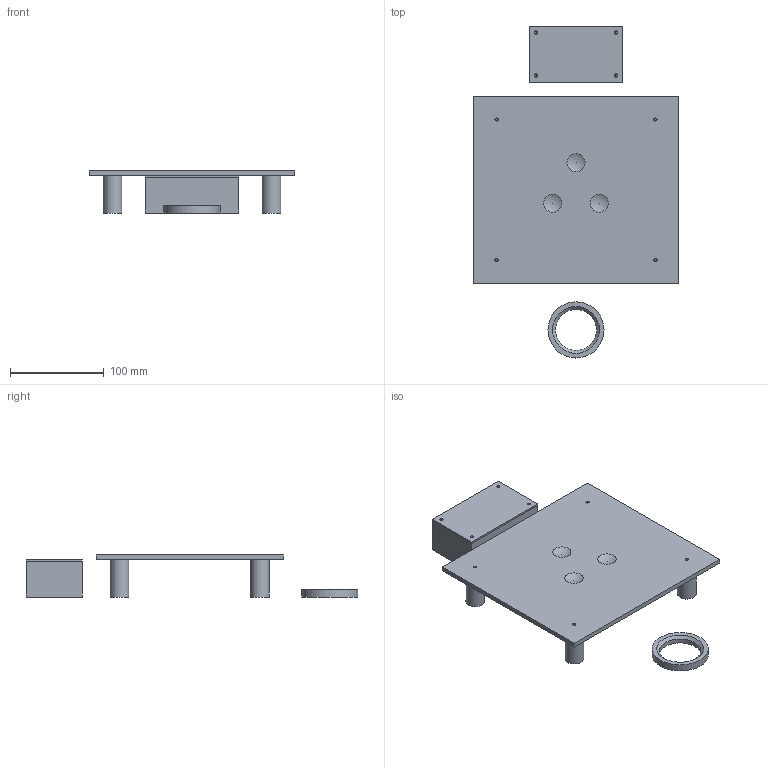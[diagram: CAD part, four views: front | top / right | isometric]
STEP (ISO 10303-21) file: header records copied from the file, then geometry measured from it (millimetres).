
FILE_DESCRIPTION(('Open CASCADE Model'),'2;1');
FILE_NAME('Open CASCADE Shape Model','2026-10-21T16:58:02',('Author'),( 'Open CASCADE'),'Open CASCADE STEP processor 7.9','Open CASCADE 7.9' ,'Unknown');
FILE_SCHEMA(('AUTOMOTIVE_DESIGN { 1 0 10303 214 1 1 1 1 }'));
Length unit declared in the file: millimetre
Products named in the file (9): P07_illustrative; tray_3_balls_0; tray_foot_1; tray_foot_2; tray_foot_3; tray_foot_4; weight_box_body_5; weight_box_lid_6; ball_ring_110_7
Assembly tree (8 placements, depth 2):
  P07_illustrative
    tray_3_balls_0
    tray_foot_1
    tray_foot_2
    tray_foot_3
    tray_foot_4
    weight_box_body_5
    weight_box_lid_6
    ball_ring_110_7
Bounding box: 220 x 355 x 45 mm (x, y, z)
Volume: 354784 mm3; surface area: 162895.6 mm2
Topology: 8 solids, 8 shells, 91 faces, 185 edges, 123 vertices
Faces by surface type: plane 57, cylinder 30, sphere 3, cone 1
Full cylindrical faces by diameter (mm): 2.5 x8, 3.4 x8, 20 x4, 44 x1, 60 x1
Entity records: 5224 total; most frequent: CARTESIAN_POINT 1111, DIRECTION 774, LINE 410, VECTOR 410, ORIENTED_EDGE 364, PCURVE 364, DEFINITIONAL_REPRESENTATION 364, EDGE_CURVE 182
